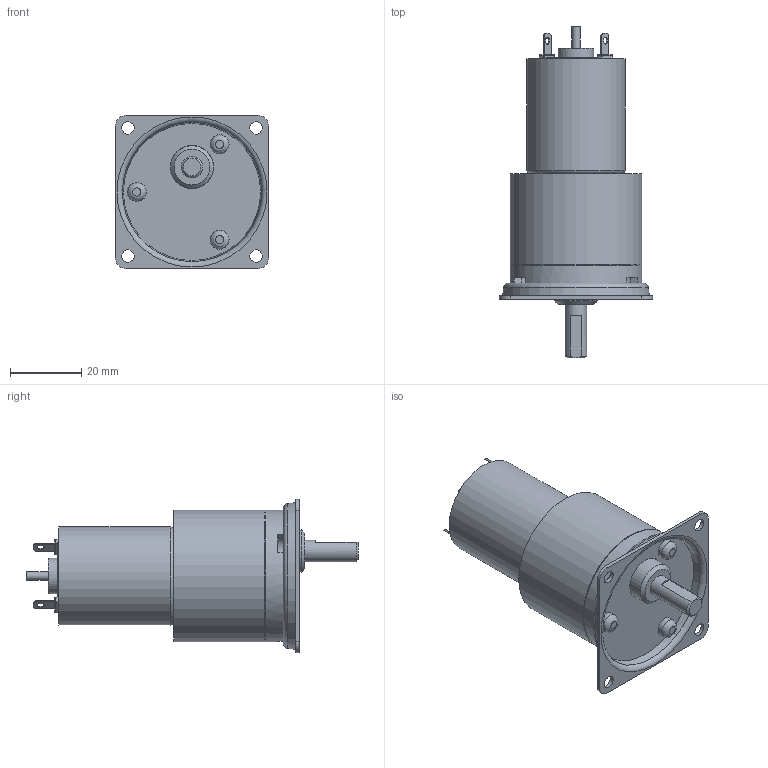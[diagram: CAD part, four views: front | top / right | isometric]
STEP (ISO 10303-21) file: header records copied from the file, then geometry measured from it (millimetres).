
FILE_DESCRIPTION((''),'2;1');
FILE_NAME('C:\Documents and Settings\SSEGAWA\デスクトップ\TP-2732D-PKS-5.STP','2013-07-01T14:18:39',('SSEGAWA'),(''),'Autodesk Inventor 2010','Autodesk Inventor 2010','');
FILE_SCHEMA(('CONFIG_CONTROL_DESIGN'));
Length unit declared in the file: millimetre
Products named in the file (5): tp_2732def_pks_5; pks_5; ks_5; □43; tp_2732d,e,f
Assembly tree (4 placements, depth 3):
  tp_2732def_pks_5
    pks_5
      ks_5
      □43
    tp_2732d,e,f
Bounding box: 43 x 93.2 x 43 mm (x, y, z)
Volume: 55536.1 mm3; surface area: 15683.8 mm2
Topology: 4 solids, 4 shells, 192 faces, 432 edges, 278 vertices
Faces by surface type: plane 106, cylinder 44, bspline 32, torus 6, cone 4
Full cylindrical faces by diameter (mm): 2 x2, 2.305 x2, 2.5 x5, 5.3 x3, 6 x1, 9 x2, 10 x2, 12 x1, 12.2 x1, 19 x1, 26.7 x1, 27.7 x1, 36.6 x1, 37 x2
Entity records: 5411 total; most frequent: CARTESIAN_POINT 1337, DIRECTION 831, ORIENTED_EDGE 702, EDGE_CURVE 351, AXIS2_PLACEMENT_3D 313, EDGE_LOOP 293, VERTEX_POINT 254, VECTOR 205
